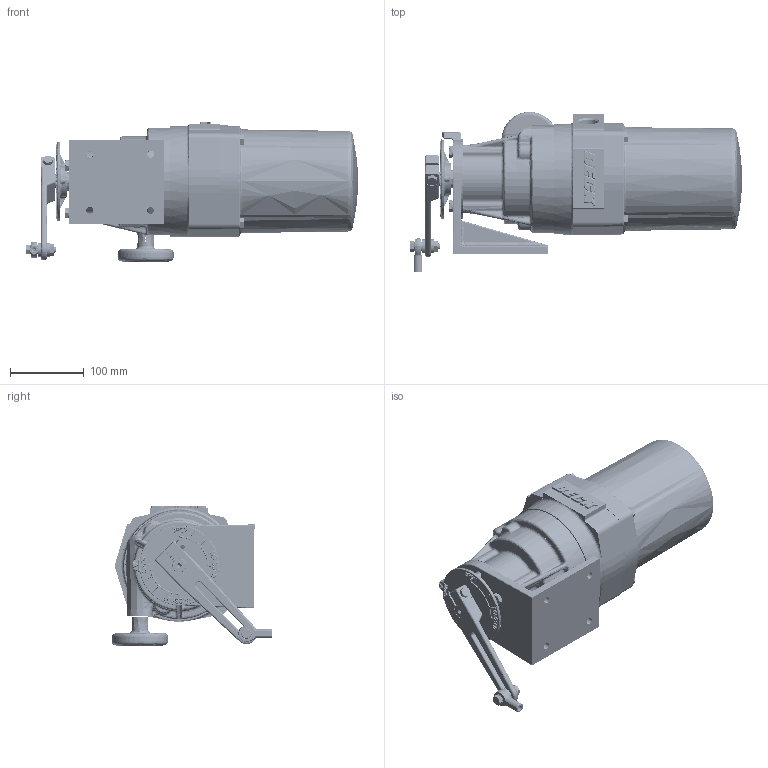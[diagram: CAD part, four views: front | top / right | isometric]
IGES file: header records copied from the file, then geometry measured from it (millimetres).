
Start section: SolidWorks IGES file using analytic representation for surfaces
Global section: file name: N:\Engineering\Product Support\Outline Dimension Models\31-xxx\IGES+STEP\18-0031-01_B.IGS; native system: SolidWorks 2009; preprocessor: SolidWorks 2009; author: jmack; date: 110617.163541; units: inch
Bounding box: 450.89 x 217.6 x 190.91 mm (x, y, z)
Surface area: 635221.2 mm2 (no closed solid volume)
Topology: 0 solids, 0 shells, 3855 faces, 35619 edges, 35202 vertices
Faces by surface type: revolution 2100, bspline 1755
